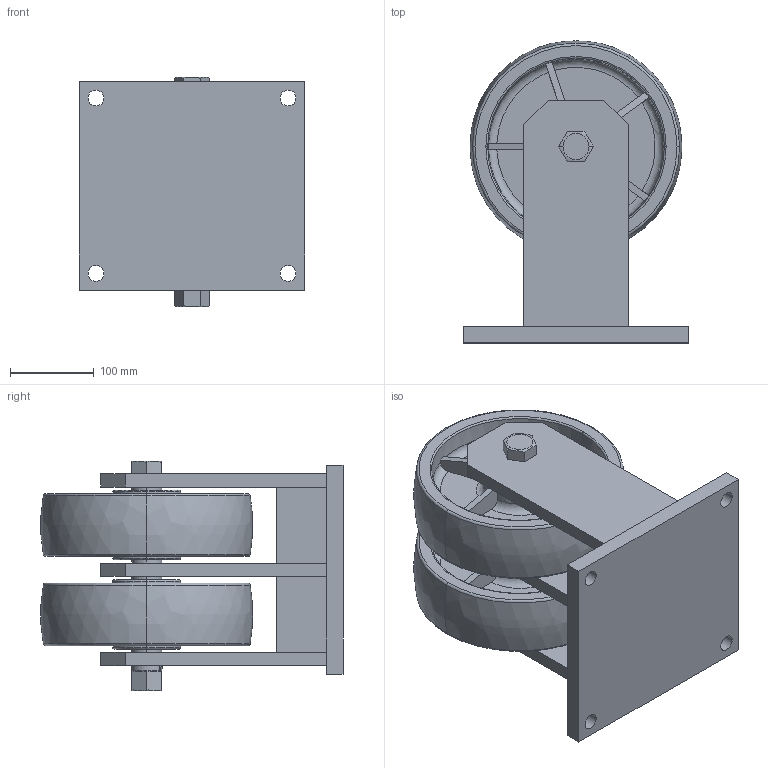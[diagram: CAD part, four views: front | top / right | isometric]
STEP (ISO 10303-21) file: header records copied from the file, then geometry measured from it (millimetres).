
FILE_DESCRIPTION((''),'2;1');
FILE_NAME('951010-9510-86A_ASM','2026-04-07T',('Lenovo'),(''),'PRO/ENGINEER BY PARAMETRIC TECHNOLOGY CORPORATION, 2010280','PRO/ENGINEER BY PARAMETRIC TECHNOLOGY CORPORATION, 2010280','');
FILE_SCHEMA(('CONFIG_CONTROL_DESIGN'));
Length unit declared in the file: millimetre
Products named in the file (13): 950C10-1; 950C10-2; 950C00; 950-10_ASM; 9310-986A; 6206; 930-54; 930-66; 9310-86A_ASM; M24X260; GB93-1987; M24X24; 951010-9510-86A_ASM
Assembly tree (18 placements, depth 3):
  951010-9510-86A_ASM
    950-10_ASM
      950C10-1  x3
      950C10-2  x2
      950C00
    9310-86A_ASM  x2
      9310-986A
      6206
      930-54
      930-66
    M24X260
    GB93-1987
    M24X24
Bounding box: 270 x 361.65 x 275 mm (x, y, z)
Volume: 7047722.2 mm3; surface area: 1030489.1 mm2
Topology: 29 solids, 29 shells, 603 faces, 1648 edges, 960 vertices
Faces by surface type: plane 185, sphere 144, torus 118, cylinder 108, cone 42, bspline 6
Entity records: 8613 total; most frequent: CARTESIAN_POINT 2480, DIRECTION 1260, ORIENTED_EDGE 1176, EDGE_CURVE 588, AXIS2_PLACEMENT_3D 542, VERTEX_POINT 398, EDGE_LOOP 316, FACE_OUTER_BOUND 253
